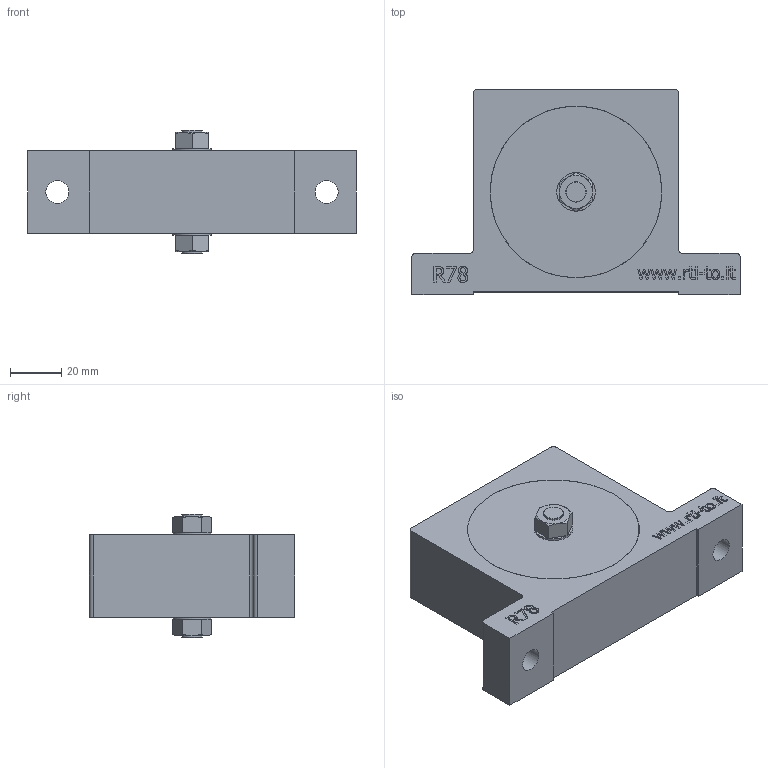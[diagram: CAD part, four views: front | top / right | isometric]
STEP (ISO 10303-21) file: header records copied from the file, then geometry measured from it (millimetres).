
FILE_DESCRIPTION((''),'2;1');
FILE_NAME('D:\UFFICIO TECNICO\PROGETTI PER PROTOTIPI\VIBRATORE - R70\R78.stp','2015-09-14T09:34:22',('Piero'),(''),'Autodesk Inventor 2011','Autodesk Inventor 2011','');
FILE_SCHEMA(('CONFIG_CONTROL_DESIGN'));
Length unit declared in the file: millimetre
Products named in the file (1): R78
Bounding box: 128 x 80 x 48 mm (x, y, z)
Volume: 148422.3 mm3; surface area: 43723.1 mm2
Topology: 1 solids, 1 shells, 295 faces, 756 edges, 495 vertices
Faces by surface type: plane 215, bspline 53, cylinder 21, cone 6
Full cylindrical faces by diameter (mm): 2.5 x1, 6 x1, 8 x2, 9 x2, 11.445 x2, 15 x2, 62 x1, 66.9 x2, 67 x2
Entity records: 9067 total; most frequent: CARTESIAN_POINT 2307, ORIENTED_EDGE 1456, DIRECTION 1160, EDGE_CURVE 728, VECTOR 542, LINE 542, VERTEX_POINT 488, EDGE_LOOP 354
